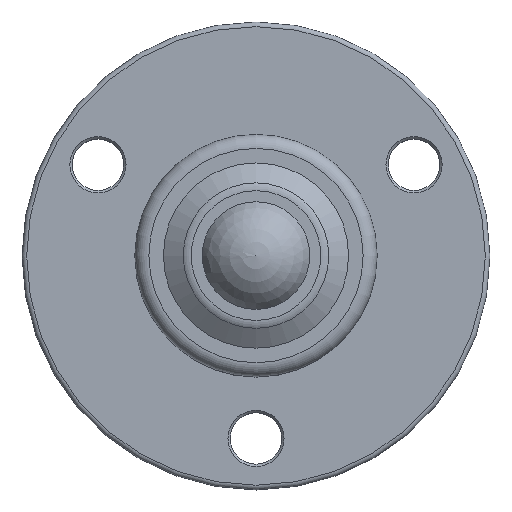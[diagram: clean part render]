
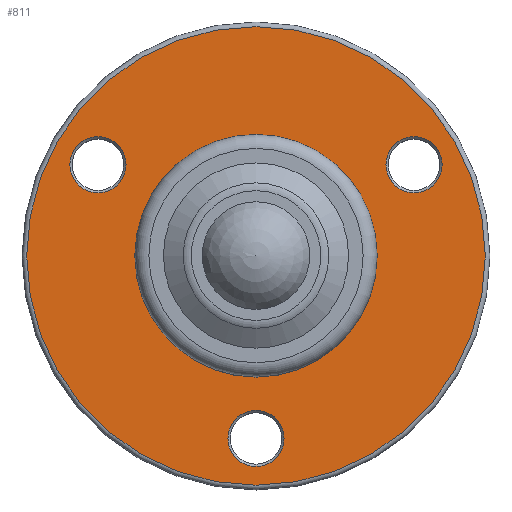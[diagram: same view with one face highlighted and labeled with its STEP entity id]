
A CAD part, top view. The second image highlights one B-rep face of the part: STEP entity #811.
In plain terms, the highlighted planar face has unit normal (0, 0, 1).
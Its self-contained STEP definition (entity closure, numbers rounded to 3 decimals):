
#91=PLANE('',#938);
#156=FACE_BOUND('',#340,.T.);
#157=FACE_BOUND('',#341,.T.);
#158=FACE_BOUND('',#342,.T.);
#159=FACE_BOUND('',#343,.T.);
#225=FACE_OUTER_BOUND('',#339,.T.);
#339=EDGE_LOOP('',(#716));
#340=EDGE_LOOP('',(#717));
#341=EDGE_LOOP('',(#718));
#342=EDGE_LOOP('',(#719));
#343=EDGE_LOOP('',(#720));
#422=CIRCLE('',#937,25.688);
#423=CIRCLE('',#939,49.);
#424=CIRCLE('',#940,6.);
#425=CIRCLE('',#941,6.);
#426=CIRCLE('',#942,6.);
#495=VERTEX_POINT('',#1445);
#496=VERTEX_POINT('',#1448);
#497=VERTEX_POINT('',#1450);
#498=VERTEX_POINT('',#1452);
#499=VERTEX_POINT('',#1454);
#574=EDGE_CURVE('',#495,#495,#422,.T.);
#575=EDGE_CURVE('',#496,#496,#423,.T.);
#576=EDGE_CURVE('',#497,#497,#424,.T.);
#577=EDGE_CURVE('',#498,#498,#425,.T.);
#578=EDGE_CURVE('',#499,#499,#426,.T.);
#716=ORIENTED_EDGE('',*,*,#575,.F.);
#717=ORIENTED_EDGE('',*,*,#576,.F.);
#718=ORIENTED_EDGE('',*,*,#577,.F.);
#719=ORIENTED_EDGE('',*,*,#578,.F.);
#720=ORIENTED_EDGE('',*,*,#574,.F.);
#811=ADVANCED_FACE('',(#225,#156,#157,#158,#159),#91,.F.);
#937=AXIS2_PLACEMENT_3D('',#1446,#1195,#1196);
#938=AXIS2_PLACEMENT_3D('',#1447,#1197,#1198);
#939=AXIS2_PLACEMENT_3D('',#1449,#1199,#1200);
#940=AXIS2_PLACEMENT_3D('',#1451,#1201,#1202);
#941=AXIS2_PLACEMENT_3D('',#1453,#1203,#1204);
#942=AXIS2_PLACEMENT_3D('',#1455,#1205,#1206);
#1195=DIRECTION('center_axis',(0.,0.,1.));
#1196=DIRECTION('ref_axis',(-1.,0.,0.));
#1197=DIRECTION('center_axis',(0.,0.,-1.));
#1198=DIRECTION('ref_axis',(-1.,0.,0.));
#1199=DIRECTION('center_axis',(0.,0.,-1.));
#1200=DIRECTION('ref_axis',(-1.,0.,0.));
#1201=DIRECTION('center_axis',(0.,0.,1.));
#1202=DIRECTION('ref_axis',(0.5,0.866,0.));
#1203=DIRECTION('center_axis',(0.,0.,1.));
#1204=DIRECTION('ref_axis',(-1.,0.,0.));
#1205=DIRECTION('center_axis',(0.,0.,1.));
#1206=DIRECTION('ref_axis',(0.5,-0.866,0.));
#1445=CARTESIAN_POINT('',(25.688,0.,12.));
#1446=CARTESIAN_POINT('Origin',(0.,0.,12.));
#1447=CARTESIAN_POINT('Origin',(0.,0.,12.));
#1448=CARTESIAN_POINT('',(49.,0.,12.));
#1449=CARTESIAN_POINT('Origin',(0.,0.,12.));
#1450=CARTESIAN_POINT('',(30.775,-24.696,12.));
#1451=CARTESIAN_POINT('Origin',(33.775,-19.5,12.));
#1452=CARTESIAN_POINT('',(6.,39.,12.));
#1453=CARTESIAN_POINT('Origin',(0.,39.,12.));
#1454=CARTESIAN_POINT('',(-36.775,-14.304,12.));
#1455=CARTESIAN_POINT('Origin',(-33.775,-19.5,12.));
